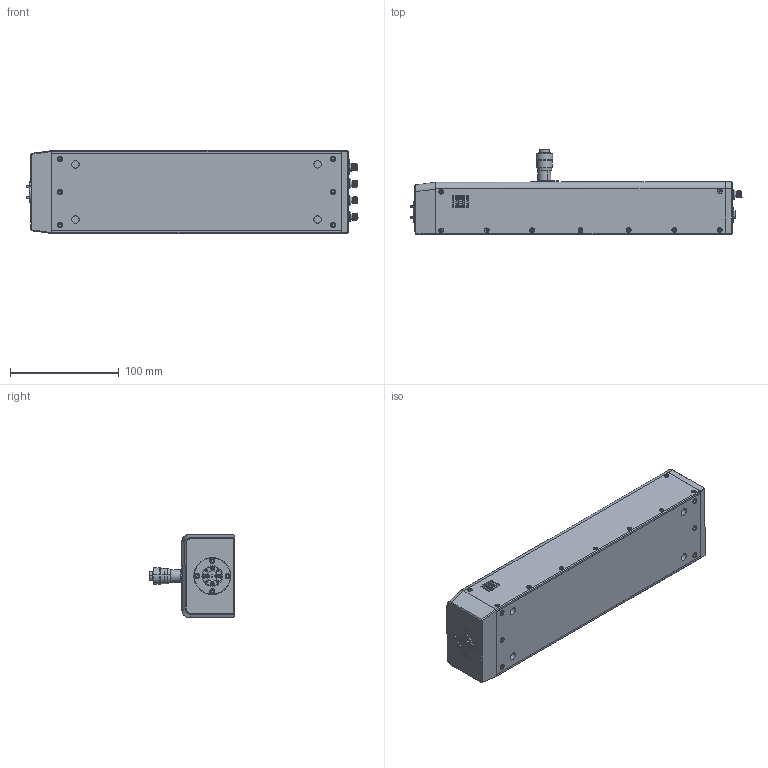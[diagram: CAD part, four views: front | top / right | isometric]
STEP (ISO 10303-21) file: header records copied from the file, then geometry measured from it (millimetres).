
FILE_DESCRIPTION (( 'STEP AP214' ), '1' );
FILE_NAME ('TO-SW-A-M_Mountable, Defeatured.STEP', '2023-06-28T23:20:20', ( '' ), ( '' ), 'SwSTEP 2.0', 'SolidWorks 2021', '' );
FILE_SCHEMA (( 'AUTOMOTIVE_DESIGN' ));
Length unit declared in the file: inch
Products named in the file (1): TO-SW-A-M_Mountable, Defeatured
Bounding box: 305.75 x 78.86 x 76.39 mm (x, y, z)
Volume: 1067018.7 mm3; surface area: 148650.9 mm2
Topology: 33 solids, 51 shells, 1960 faces, 4705 edges, 2939 vertices
Faces by surface type: plane 831, cylinder 664, cone 434, bspline 23, torus 8
Entity records: 90801 total; most frequent: CARTESIAN_POINT 21252, DIRECTION 9364, ORIENTED_EDGE 9218, EDGE_CURVE 4609, AXIS2_PLACEMENT_3D 3627, VERTEX_POINT 2939, EDGE_LOOP 2220, VECTOR 2110
